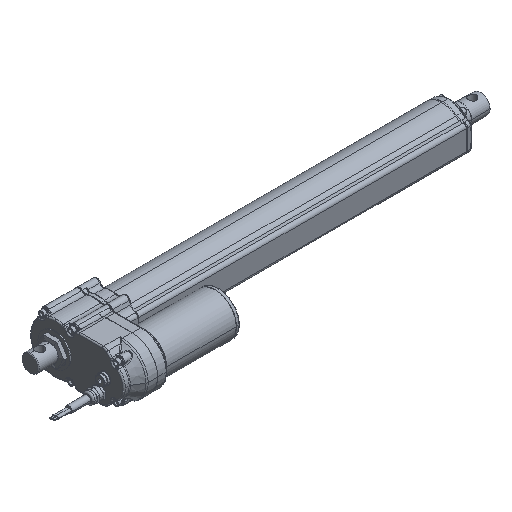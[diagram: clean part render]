
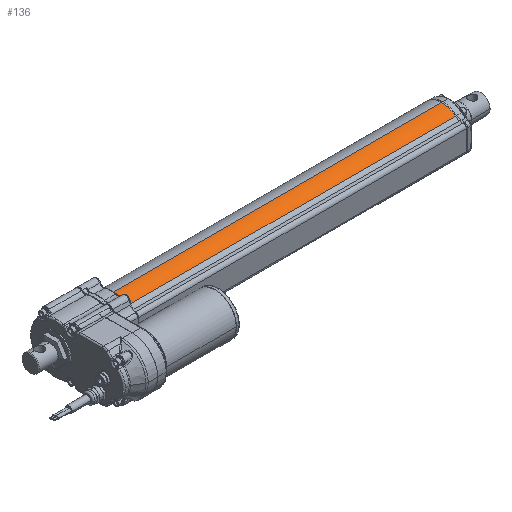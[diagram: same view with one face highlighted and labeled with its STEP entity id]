
A CAD part, isometric view. The second image highlights one B-rep face of the part: STEP entity #136.
In plain terms, the highlighted cylindrical face has radius 30.5 mm (diameter 61 mm), a partial arc.
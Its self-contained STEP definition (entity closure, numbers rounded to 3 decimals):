
#136=ADVANCED_FACE('',(#1138),#1139,.T.);
#1138=FACE_OUTER_BOUND('',#3063,.T.);
#1139=CYLINDRICAL_SURFACE('',#3064,30.5);
#3063=EDGE_LOOP('',(#8479,#8480,#8481,#8482));
#3064=AXIS2_PLACEMENT_3D('',#8483,#8484,#8485);
#8479=ORIENTED_EDGE('',*,*,#15518,.F.);
#8480=ORIENTED_EDGE('',*,*,#15519,.F.);
#8481=ORIENTED_EDGE('',*,*,#15520,.T.);
#8482=ORIENTED_EDGE('',*,*,#15521,.F.);
#8483=CARTESIAN_POINT('',(94.3,0.,0.));
#8484=DIRECTION('',(1.0,0.,0.));
#8485=DIRECTION('',(0.,0.,1.0));
#15518=EDGE_CURVE('',#18125,#18126,#18127,.T.);
#15519=EDGE_CURVE('',#18128,#18125,#18129,.T.);
#15520=EDGE_CURVE('',#18128,#18130,#18131,.T.);
#15521=EDGE_CURVE('',#18126,#18130,#18132,.T.);
#18125=VERTEX_POINT('',#23105);
#18126=VERTEX_POINT('',#23106);
#18127=LINE('',#23107,#23108);
#18128=VERTEX_POINT('',#23109);
#18129=CIRCLE('',#23110,30.5);
#18130=VERTEX_POINT('',#23111);
#18131=LINE('',#23112,#23113);
#18132=CIRCLE('',#23114,30.5);
#23105=CARTESIAN_POINT('',(94.3,0.,30.5));
#23106=CARTESIAN_POINT('',(589.5,0.,30.5));
#23107=CARTESIAN_POINT('',(94.3,0.,30.5));
#23108=VECTOR('',#38996,1.0);
#23109=CARTESIAN_POINT('',(94.3,-20.49,22.593));
#23110=AXIS2_PLACEMENT_3D('',#38997,#38998,#38999);
#23111=CARTESIAN_POINT('',(589.5,-20.49,22.593));
#23112=CARTESIAN_POINT('',(94.3,-20.49,22.593));
#23113=VECTOR('',#39000,1.0);
#23114=AXIS2_PLACEMENT_3D('',#39001,#39002,#39003);
#38996=DIRECTION('',(1.0,0.,0.));
#38997=CARTESIAN_POINT('',(94.3,0.,0.));
#38998=DIRECTION('',(-1.0,0.,0.));
#38999=DIRECTION('',(0.,0.,1.0));
#39000=DIRECTION('',(1.0,0.,0.));
#39001=CARTESIAN_POINT('',(589.5,0.,0.));
#39002=DIRECTION('',(1.0,0.,0.));
#39003=DIRECTION('',(0.,0.,1.0));
